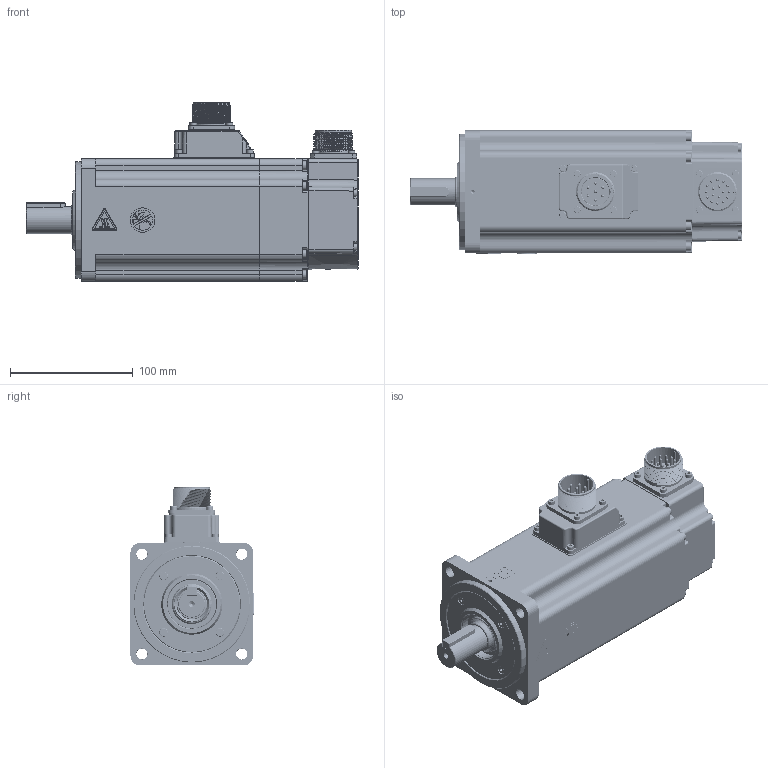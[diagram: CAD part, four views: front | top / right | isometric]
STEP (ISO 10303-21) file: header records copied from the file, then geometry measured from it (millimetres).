
FILE_DESCRIPTION( ( 'Unknown' ), '1' );
FILE_NAME( 'X:/05_Progetto TCE/010-TCE motor drawings/TCE100/vuoti/TCE100 4B XX 3 A2 1 C3.stp', 'Unknown', ( 'Unknown' ), ( 'Unknown' ), 'PSStep 17.0.49', 'Unknown', ' ' );
FILE_SCHEMA( ( 'AUTOMOTIVE_DESIGN { 1 0 10303 214 1 1 1 1 }' ) );
Length unit declared in the file: millimetre
Products named in the file (66): U5140004 vuoto; 005911000150; 003799000580; 005911000201; 003303000373; 005117001750; 003303000370; 003108002568_90°; 003120002503; Assem1; 005911000203; 005123000500; 005911000493; 005911000493-oa0; 005911000493-oa1; 005911000493-oa2; 005911000183; 005911000183-oa3; 005911000183-oa4; 005911000183-oa5; 005123000420; 003155000301; 003251022001; 005751000300; 005113000596; 005008000690-oa6; 005008000790-oa7; 005008000742-oa8; 005119000312; 005204000003; 005911000212; 005911000212-oa9; 005911000212-oa10; 005911000212-oa11; 005911000212-oa12; 005911000212-oa13; 005911000212-oa14; 005911000212-oa15; 005204000002; 005204000001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
Assembly tree (75 placements, depth 3):
  Assem1
    005911000203  x4
    005123000500
    005123000500
    005123000500
    005123000500
    005123000500
    005123000500
    005123000500
    005123000500
    005123000500
    005911000493
    005911000493-oa0
    005911000493-oa1
    005911000493-oa2
    005911000183
    005911000183-oa3
    005911000183-oa4
    005911000183-oa5
    005123000420
    005123000420
    005123000420
    005123000420
    005123000420
    005123000420
    005123000420
    003155000301
    003303000373
    003251022001
    005751000300
    005113000596
    005008000690-oa6
    005008000790-oa7
    005008000742-oa8
    005119000312
    005119000312
    005204000003
    005911000212
    005911000212-oa9
    005911000212-oa10
    005911000212-oa11
    005911000212-oa12
    005911000212-oa13
    005911000212-oa14
    005911000212-oa15
    005204000002
    005204000001
    005117001754
    003103001511
    001107000620
    005911000201
    005911000201-oa16
    005911000201-oa17
    005911000201-oa18
    003003050049
    U5140004 vuoto
      005911000150
      003799000580
      005911000201  x8
      003303000373
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Bounding box: 270.5 x 100.3 x 145.8 mm (x, y, z)
Volume: 812956.2 mm3; surface area: 342529 mm2
Topology: 74 solids, 84 shells, 3035 faces, 7502 edges, 4832 vertices
Faces by surface type: plane 1550, cylinder 713, extrusion 233, cone 178, torus 156, bspline 103, sphere 102
Full cylindrical faces by diameter (mm): 1.7 x2, 2 x35, 2.224 x1, 2.4 x8, 2.459 x24, 2.5 x1, 2.6 x1, 2.8 x7, 3 x34, 3.048 x4, 3.2 x5, 3.242 x41, 3.5 x13, 3.6 x1, 3.7 x8, 3.8 x2, 4 x29, 4.5 x12, 4.7 x11, 4.917 x1, 5.1 x1, 5.5 x30, 5.8 x6, 7 x16, 7.5 x4, 8 x7, 10 x1, 11 x1, 12 x1, 16.2 x1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
Entity records: 121864 total; most frequent: CARTESIAN_POINT 34475, DIRECTION 12659, ORIENTED_EDGE 12456, EDGE_CURVE 6228, AXIS2_PLACEMENT_3D 4436, VERTEX_POINT 4415, EDGE_LOOP 3909, VECTOR 3787
